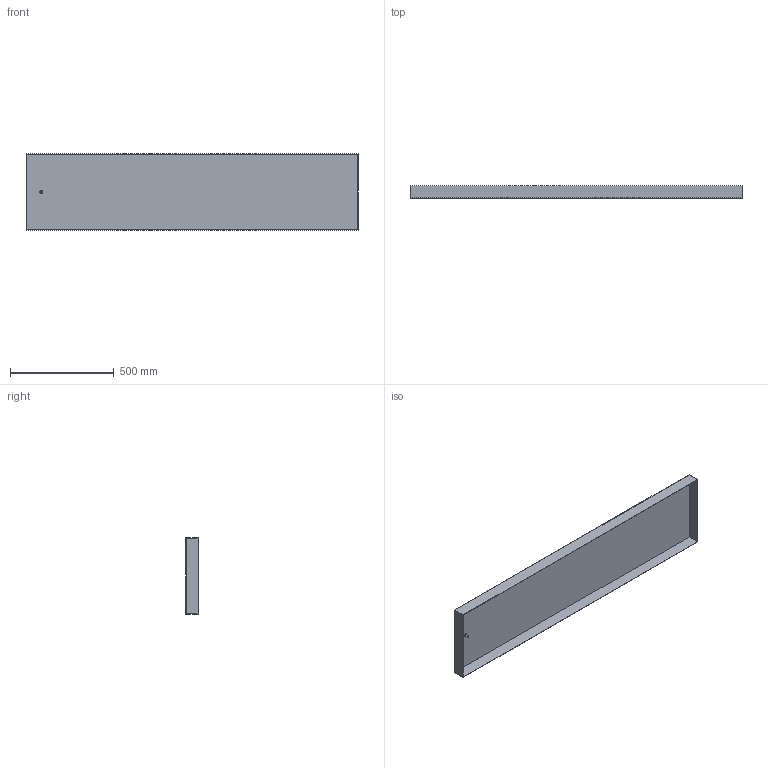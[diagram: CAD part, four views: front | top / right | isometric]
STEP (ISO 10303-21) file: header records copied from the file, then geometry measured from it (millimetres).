
FILE_DESCRIPTION( ( 'STEP AP214' ), '1' );
FILE_NAME( 'p:/temp/worker_119/temp/exporttempdir_932_454_IXj1T/format_0/CVR1604R5(0).stp', '2021-03-15T15:09:27', ( 'License CC BY-ND 4.0' ), ( 'CADENAS' ), ' ', 'PARTsolutions', ' ' );
FILE_SCHEMA( ( 'AUTOMOTIVE_DESIGN { 1 0 10303 214 1 1 1 1 }' ) );
Length unit declared in the file: millimetre
Products named in the file (1): _CVR1604R5(0)
Bounding box: 1598 x 58 x 368 mm (x, y, z)
Volume: 1215809.6 mm3; surface area: 1626286.9 mm2
Topology: 1 solids, 1 shells, 19 faces, 38 edges, 25 vertices
Faces by surface type: plane 14, cylinder 3, cone 2
Full cylindrical faces by diameter (mm): 8 x1, 9 x1, 14 x1
Entity records: 626 total; most frequent: DIRECTION 80, CARTESIAN_POINT 76, ORIENTED_EDGE 64, EDGE_CURVE 32, AXIS2_PLACEMENT_3D 28, EDGE_LOOP 28, VERTEX_POINT 24, LINE 24
